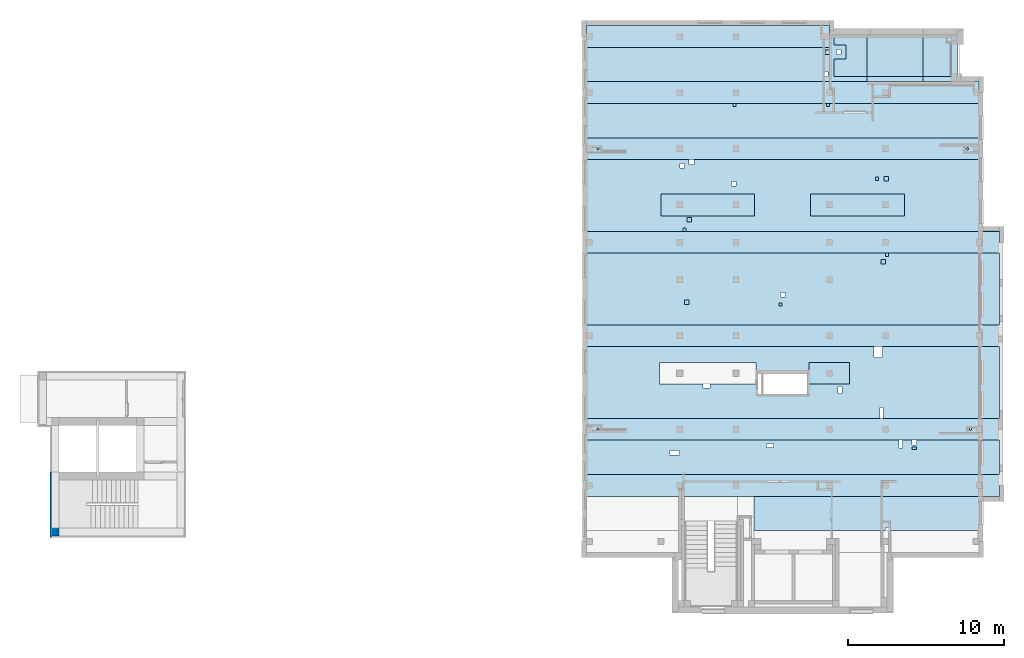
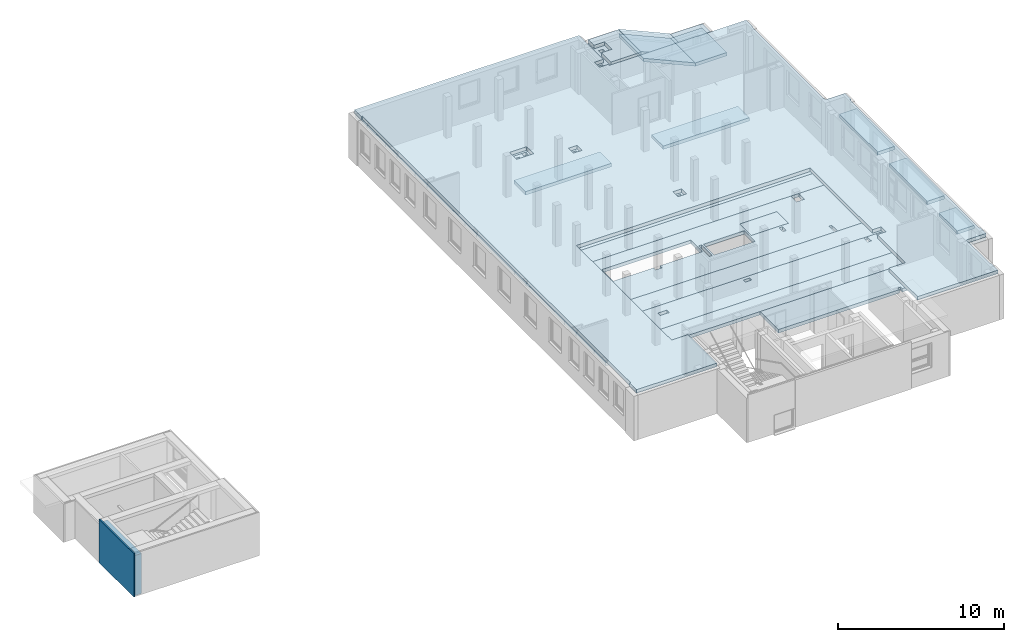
# One storey, part 2 of 27: 26 slabs, 1 wall, 33 openings.
"""IFC4 building model written with IfcOpenShell, lengths in metres."""

from ifc_helpers import new_model, entity, si_unit, converted_unit, derived_unit, frame, frame_2d, origin, origin_with_axes, place, context, subcontext, project, spatial, polyline, rectangle, circle, outline, extrude, clip, bounded_halfspace, material, layer, layer_set, layer_usage, element, save


model = new_model("IFC4")

# Units and contexts
model_context = context("Model", 3, precision=1e-05, world=origin())
body_context = subcontext(model_context, "Body", "Model", "MODEL_VIEW")
ifc_project = project(units=[si_unit("LENGTHUNIT", "METRE"), si_unit("AREAUNIT", "SQUARE_METRE"), si_unit("VOLUMEUNIT", "CUBIC_METRE"), si_unit("MASSUNIT", "GRAM", prefix="KILO"), converted_unit("PLANEANGLEUNIT", "DEGREE", entity("IfcPlaneAngleMeasure", 0.0174532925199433), si_unit("PLANEANGLEUNIT", "RADIAN"), dimensions=[0, 0, 0, 0, 0, 0, 0]), derived_unit("THERMALTRANSMITTANCEUNIT", [(si_unit("POWERUNIT", "WATT"), 1), (si_unit("THERMODYNAMICTEMPERATUREUNIT", "KELVIN"), -1), (si_unit("LENGTHUNIT", "METRE"), -2)]), derived_unit("VOLUMETRICFLOWRATEUNIT", [(si_unit("LENGTHUNIT", "METRE"), 3), (converted_unit("TIMEUNIT", "hour", entity("IfcTimeMeasure", 3600.0), si_unit("TIMEUNIT", "SECOND"), dimensions=[0, 0, 1, 0, 0, 0, 0]), -1), (si_unit("LENGTHUNIT", "METRE"), -1)])], contexts=[model_context])

# Site, building, storey
site_placement = place(None, origin())
site = spatial("IfcSite", under=ifc_project, at=site_placement, Name="3. ASŘ", CompositionType="ELEMENT")
building_placement = place(site_placement, origin())
building = spatial("IfcBuilding", under=site, at=building_placement, Name="Pavilon C", CompositionType="ELEMENT")
storey_placement = place(building_placement, frame((0.0, 0.0, 10.5)))
storey = spatial("IfcBuildingStorey", under=building, at=storey_placement, Name="Půdorys 4.NP", CompositionType="ELEMENT", Elevation=10.5)

# Slab, openings
ifc_material_1 = material(Name="PZD")
slab_1_placement = place(storey_placement, frame((24.75, 13.9, 2.95)))
slab_1 = element("IfcSlab", 1, at=slab_1_placement, inside=storey, material=ifc_material_1, PredefinedType="FLOOR", context=body_context, shape_type="SweptSolid", body=[
    extrude(rectangle(XDim=4.6, YDim=25.2, at=frame_2d((12.6, -2.3), x_axis=(0.0, -1.0))), frame((0.0, 4.6, 0.0), z_axis=(0.0, 0.0, 1.0), x_axis=(1.0, 0.0, 0.0)), (0.0, 0.0, 1.0), 0.25),
])
opening_1_placement = place(slab_1_placement, frame((12.475, 1.775, 0.0)))
element("IfcOpeningElement", 2, at=opening_1_placement, cuts=slab_1, Name="Prostup deskou", ObjectType="Opening", context=body_context, shape_type="SweptSolid", body=[
    extrude(rectangle(XDim=0.3, YDim=0.3, at=frame_2d((0.0, -3.63797880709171e-15), x_axis=(0.0, -1.0))), frame((0.15, 0.150000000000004, 0.0), z_axis=(0.0, 0.0, 1.0), x_axis=(1.0, 0.0, 0.0)), (0.0, 0.0, 1.0), 0.25),
])
opening_2_placement = place(slab_1_placement, frame((12.35, 1.2, 0.0)))
element("IfcOpeningElement", 3, at=opening_2_placement, cuts=slab_1, Name="Prostup deskou", ObjectType="Opening", context=body_context, shape_type="SweptSolid", body=[
    extrude(rectangle(XDim=0.2, YDim=0.2, at=frame_2d((7.27595761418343e-15, -1.81898940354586e-15), x_axis=(0.0, -1.0))), frame((0.0999999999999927, 0.100000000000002, 0.0), z_axis=(0.0, 0.0, 1.0), x_axis=(1.0, 0.0, 0.0)), (0.0, 0.0, 1.0), 0.25),
])
opening_3_placement = place(slab_1_placement, frame((19.2, 4.4, 0.0)))
element("IfcOpeningElement", 4, at=opening_3_placement, cuts=slab_1, Name="Prostup deskou", ObjectType="Opening", context=body_context, shape_type="SweptSolid", body=[
    extrude(rectangle(XDim=0.2, YDim=0.2, at=frame_2d((7.27595761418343e-15, -3.63797880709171e-15), x_axis=(0.0, -1.0))), frame((0.0999999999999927, 0.100000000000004, 0.0), z_axis=(0.0, 0.0, 1.0), x_axis=(1.0, 0.0, 0.0)), (0.0, 0.0, 1.0), 0.25),
])
opening_4_placement = place(slab_1_placement, frame((18.9, 3.9, 0.0)))
element("IfcOpeningElement", 5, at=opening_4_placement, cuts=slab_1, Name="Prostup deskou", ObjectType="Opening", context=body_context, shape_type="SweptSolid", body=[
    extrude(rectangle(XDim=0.3, YDim=0.3, at=frame_2d((7.27595761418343e-15, -3.63797880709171e-15), x_axis=(0.0, -1.0))), frame((0.149999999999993, 0.150000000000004, 0.0), z_axis=(0.0, 0.0, 1.0), x_axis=(1.0, 0.0, 0.0)), (0.0, 0.0, 1.0), 0.25),
])
opening_5_placement = place(slab_1_placement, frame((6.3, 1.3, 0.0)))
element("IfcOpeningElement", 6, at=opening_5_placement, cuts=slab_1, Name="Prostup deskou", ObjectType="Opening", context=body_context, shape_type="SweptSolid", body=[
    extrude(rectangle(XDim=0.3, YDim=0.3, at=frame_2d((7.27595761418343e-15, -1.81898940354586e-15), x_axis=(0.0, -1.0))), frame((0.149999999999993, 0.150000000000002, 0.0), z_axis=(0.0, 0.0, 1.0), x_axis=(1.0, 0.0, 0.0)), (0.0, 0.0, 1.0), 0.25),
])

# Slab, opening
ifc_material_2 = material(Name="PZD")
slab_2_placement = place(storey_placement, frame((35.52, 0.699999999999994, 2.95)))
slab_2 = element("IfcSlab", 7, at=slab_2_placement, inside=storey, material=ifc_material_2, PredefinedType="FLOOR", context=body_context, shape_type="SweptSolid", body=[
    extrude(rectangle(XDim=14.43, YDim=2.2, at=frame_2d((7.215, 1.1), x_axis=(1.0, -7.87850573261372e-18))), frame((0.0, 1.13686837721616e-16, 0.0), z_axis=(0.0, 0.0, 1.0), x_axis=(1.0, 0.0, 0.0)), (0.0, 0.0, 1.0), 0.25),
])
opening_6_placement = place(slab_2_placement, frame((8.43, -1.70530256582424e-15, 0.0)))
element("IfcOpeningElement", 8, at=opening_6_placement, cuts=slab_2, Name="Prostup deskou", ObjectType="Opening", context=body_context, shape_type="SweptSolid", body=[
    extrude(rectangle(XDim=0.2, YDim=0.2, at=frame_2d((7.27595761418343e-15, 0.0), x_axis=(0.0, -1.0))), frame((0.0999999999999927, 0.1, 0.0), z_axis=(0.0, 0.0, 1.0), x_axis=(1.0, 0.0, 0.0)), (0.0, 0.0, 1.0), 0.25),
])

# Slabs
ifc_material_3 = material(Name="PZD")
slab_3_placement = place(storey_placement, frame((50.05, 4.29999999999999, 2.95)))
element("IfcSlab", 9, at=slab_3_placement, inside=storey, material=ifc_material_3, PredefinedType="FLOOR", context=body_context, shape_type="SweptSolid", body=[
    extrude(rectangle(XDim=1.2, YDim=2.2, at=frame_2d((0.6, 1.1), x_axis=(1.0, 0.0))), origin_with_axes(), (0.0, 0.0, 1.0), 0.25),
])
ifc_material_4 = material(Name="PZD")
slab_4_placement = place(storey_placement, frame((50.05, 7.89999999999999, 2.95)))
element("IfcSlab", 10, at=slab_4_placement, inside=storey, material=ifc_material_4, PredefinedType="FLOOR", context=body_context, shape_type="SweptSolid", body=[
    extrude(rectangle(XDim=1.2, YDim=4.6, at=frame_2d((0.6, 2.3), x_axis=(1.0, 0.0))), origin_with_axes(), (0.0, 0.0, 1.0), 0.25),
])
ifc_material_5 = material(Name="RZT")
slab_5_placement = place(storey_placement, frame((24.75, 2.89999999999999, 2.95)))
element("IfcSlab", 11, at=slab_5_placement, inside=storey, material=ifc_material_5, PredefinedType="FLOOR", context=body_context, shape_type="SweptSolid", body=[
    extrude(rectangle(XDim=1.4, YDim=26.5, at=frame_2d((-13.25, 0.700000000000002), x_axis=(0.0, 1.0))), frame((26.5, 0.0, 0.0), z_axis=(0.0, 0.0, 1.0), x_axis=(1.0, 0.0, 0.0)), (0.0, 0.0, 1.0), 0.25),
])
ifc_material_6 = material(Name="RZT")
slab_6_placement = place(storey_placement, frame((39.05, 10.1, 2.95)))
element("IfcSlab", 12, at=slab_6_placement, inside=storey, material=ifc_material_6, PredefinedType="FLOOR", context=body_context, shape_type="SweptSolid", body=[
    extrude(rectangle(XDim=1.4, YDim=2.6, at=frame_2d((-1.3, 0.7), x_axis=(0.0, 1.0))), frame((2.6, 0.0, 0.0), z_axis=(0.0, 0.0, 1.0), x_axis=(1.0, 0.0, 0.0)), (0.0, 0.0, 1.0), 0.25),
])
ifc_material_7 = material(Name="RZT")
slab_7_placement = place(storey_placement, frame((24.75, 12.5, 2.95)))
element("IfcSlab", 13, at=slab_7_placement, inside=storey, material=ifc_material_7, PredefinedType="FLOOR", context=body_context, shape_type="SweptSolid", body=[
    extrude(rectangle(XDim=1.4, YDim=26.5, at=frame_2d((-13.25, 0.700000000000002), x_axis=(0.0, 1.0))), frame((26.5, 0.0, 0.0), z_axis=(0.0, 0.0, 1.0), x_axis=(1.0, 0.0, 0.0)), (0.0, 0.0, 1.0), 0.25),
])
ifc_material_8 = material(Name="RZT")
slab_8_placement = place(storey_placement, frame((24.75, 18.5, 2.95)))
element("IfcSlab", 14, at=slab_8_placement, inside=storey, material=ifc_material_8, PredefinedType="FLOOR", context=body_context, shape_type="SweptSolid", body=[
    extrude(rectangle(XDim=1.4, YDim=26.5, at=frame_2d((-13.25, 0.7), x_axis=(0.0, 1.0))), frame((26.5, 0.0, 0.0), z_axis=(0.0, 0.0, 1.0), x_axis=(1.0, 0.0, 0.0)), (0.0, 0.0, 1.0), 0.25),
])
ifc_material_9 = material(Name="RZT")
slab_9_placement = place(storey_placement, frame((39.15, 20.9, 2.95)))
element("IfcSlab", 15, at=slab_9_placement, inside=storey, material=ifc_material_9, PredefinedType="FLOOR", context=body_context, shape_type="SweptSolid", body=[
    extrude(rectangle(XDim=1.4, YDim=6.0, at=frame_2d((-3.0, 0.7), x_axis=(0.0, 1.0))), frame((6.0, 0.0, 0.0), z_axis=(0.0, 0.0, 1.0), x_axis=(1.0, 0.0, 0.0)), (0.0, 0.0, 1.0), 0.25),
])
ifc_material_10 = material(Name="RZT")
slab_10_placement = place(storey_placement, frame((29.55, 20.9, 2.95)))
element("IfcSlab", 16, at=slab_10_placement, inside=storey, material=ifc_material_10, PredefinedType="FLOOR", context=body_context, shape_type="SweptSolid", body=[
    extrude(rectangle(XDim=1.4, YDim=6.0, at=frame_2d((-3.0, 0.7), x_axis=(0.0, 1.0))), frame((6.0, 0.0, 0.0), z_axis=(0.0, 0.0, 1.0), x_axis=(1.0, 0.0, 0.0)), (0.0, 0.0, 1.0), 0.25),
])
ifc_material_11 = material(Name="PZD")
slab_11_placement = place(storey_placement, frame((50.05, 13.9, 2.95)))
element("IfcSlab", 17, at=slab_11_placement, inside=storey, material=ifc_material_11, PredefinedType="FLOOR", context=body_context, shape_type="SweptSolid", body=[
    extrude(rectangle(XDim=1.2, YDim=4.6, at=frame_2d((0.6, 2.3), x_axis=(1.0, 0.0))), origin_with_axes(), (0.0, 0.0, 1.0), 0.25),
])
ifc_material_12 = material(Name="RZT")
slab_12_placement = place(storey_placement, frame((24.75, 31.7, 2.95)))
element("IfcSlab", 18, at=slab_12_placement, inside=storey, material=ifc_material_12, PredefinedType="FLOOR", context=body_context, shape_type="SweptSolid", body=[
    extrude(rectangle(XDim=15.6, YDim=1.4, at=frame_2d((-7.8, -0.7), x_axis=(-1.0, 0.0))), frame((15.6, 1.4, 0.0), z_axis=(0.0, 0.0, 1.0), x_axis=(1.0, 0.0, 0.0)), (0.0, 0.0, 1.0), 0.25),
])

# Slab, openings
ifc_material_13 = material(Name="PZD")
slab_13_placement = place(storey_placement, frame((24.75, 7.9, 2.95)))
slab_13 = element("IfcSlab", 19, at=slab_13_placement, inside=storey, material=ifc_material_13, PredefinedType="FLOOR", context=body_context, shape_type="SweptSolid", body=[
    extrude(outline(polyline([(25.2, 0.0), (25.2, 4.6), (0.0, 4.6), (0.0, 0.0), (25.2, 0.0)]), holes=[polyline([(10.9, 2.19999999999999), (4.7, 2.19999999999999), (4.7, 3.59999999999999), (10.9, 3.59999999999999), (10.9, 2.19999999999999)]), polyline([(14.3, 2.2), (14.3, 3.59999999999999), (16.9, 3.59999999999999), (16.9, 2.19999999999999), (14.3, 2.2)])]), origin_with_axes(), (0.0, 0.0, 1.0), 0.25),
])
opening_7_placement = place(slab_13_placement, frame((18.85, -4.54747350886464e-15, 0.0)))
element("IfcOpeningElement", 20, at=opening_7_placement, cuts=slab_13, Name="Prostup deskou", ObjectType="Opening", context=body_context, shape_type="SweptSolid", body=[
    extrude(rectangle(XDim=0.7, YDim=0.2, at=frame_2d((7.27595761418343e-15, 0.0), x_axis=(0.0, -1.0))), frame((0.0999999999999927, 0.35, 0.0), z_axis=(0.0, 0.0, 1.0), x_axis=(1.0, 0.0, 0.0)), (0.0, 0.0, 1.0), 0.25),
])
opening_8_placement = place(slab_13_placement, frame((16.15, 1.59999999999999, 1.81898940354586e-15)))
element("IfcOpeningElement", 21, at=opening_8_placement, cuts=slab_13, Name="Prostup deskou", ObjectType="Opening", context=body_context, shape_type="SweptSolid", body=[
    extrude(rectangle(XDim=0.45, YDim=0.25, at=frame_2d((7.27595761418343e-15, 1.81898940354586e-15), x_axis=(0.0, -1.0))), frame((0.124999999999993, 0.224999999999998, -1.81898940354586e-15), z_axis=(0.0, 0.0, 1.0), x_axis=(1.0, 0.0, 0.0)), (0.0, 0.0, 1.0), 0.25),
])
opening_9_placement = place(slab_13_placement, frame((18.45, 3.9, 1.81898940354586e-15)))
element("IfcOpeningElement", 22, at=opening_9_placement, cuts=slab_13, Name="Prostup deskou", ObjectType="Opening", context=body_context, shape_type="SweptSolid", body=[
    extrude(rectangle(XDim=0.7, YDim=0.55, at=frame_2d((7.27595761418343e-15, 0.0), x_axis=(0.0, -1.0))), frame((0.274999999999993, 0.35, -1.81898940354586e-15), z_axis=(0.0, 0.0, 1.0), x_axis=(1.0, 0.0, 0.0)), (0.0, 0.0, 1.0), 0.25),
])
opening_10_placement = place(slab_13_placement, frame((7.5, 1.95, 1.81898940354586e-15)))
element("IfcOpeningElement", 23, at=opening_10_placement, cuts=slab_13, Name="Prostup deskou", ObjectType="Opening", context=body_context, shape_type="SweptSolid", body=[
    extrude(rectangle(XDim=0.25, YDim=0.45, at=frame_2d((7.27595761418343e-15, -1.81898940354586e-15), x_axis=(0.0, -1.0))), frame((0.224999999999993, 0.125000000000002, -1.81898940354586e-15), z_axis=(0.0, 0.0, 1.0), x_axis=(1.0, 0.0, 0.0)), (0.0, 0.0, 1.0), 0.25),
])
opening_11_placement = place(slab_13_placement, frame((11.3375, 1.55, 0.0)))
element("IfcOpeningElement", 24, at=opening_11_placement, cuts=slab_13, Name="Prostup deskou", ObjectType="Opening", context=body_context, shape_type="SweptSolid", body=[
    extrude(rectangle(XDim=1.3, YDim=2.85, at=frame_2d((7.27595761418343e-15, 0.0), x_axis=(0.0, -1.0))), frame((1.42499999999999, 0.65, 0.0), z_axis=(0.0, 0.0, 1.0), x_axis=(1.0, 0.0, 0.0)), (0.0, 0.0, 1.0), 0.25),
])
opening_12_placement = place(slab_13_placement, frame((11.0125, 1.55, 0.0)))
element("IfcOpeningElement", 25, at=opening_12_placement, cuts=slab_13, Name="Prostup deskou", ObjectType="Opening", context=body_context, shape_type="SweptSolid", body=[
    extrude(rectangle(XDim=1.3, YDim=0.2, at=frame_2d((7.27595761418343e-15, 0.0), x_axis=(0.0, -1.0))), frame((0.0999999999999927, 0.65, 0.0), z_axis=(0.0, 0.0, 1.0), x_axis=(1.0, 0.0, 0.0)), (0.0, 0.0, 1.0), 0.25),
])

ifc_material_14 = material(Name="PZD")
slab_14_placement = place(storey_placement, frame((24.75, 4.3, 2.95)))
slab_14 = element("IfcSlab", 26, at=slab_14_placement, inside=storey, material=ifc_material_14, PredefinedType="FLOOR", context=body_context, shape_type="SweptSolid", body=[
    extrude(rectangle(XDim=2.2, YDim=25.2, at=frame_2d((-12.6, 1.1), x_axis=(0.0, 1.0))), frame((25.2, 0.0, 0.0), z_axis=(0.0, 0.0, 1.0), x_axis=(1.0, 0.0, 0.0)), (0.0, 0.0, 1.0), 0.25),
])
opening_13_placement = place(slab_14_placement, frame((20.9, 1.6, 0.0)))
element("IfcOpeningElement", 27, at=opening_13_placement, cuts=slab_14, Name="Prostup deskou", ObjectType="Opening", context=body_context, shape_type="SweptSolid", body=[
    extrude(rectangle(XDim=0.15, YDim=0.3, at=frame_2d((7.27595761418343e-15, 9.09494701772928e-16), x_axis=(0.0, -1.0))), frame((0.149999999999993, 0.0749999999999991, 0.0), z_axis=(0.0, 0.0, 1.0), x_axis=(1.0, 0.0, 0.0)), (0.0, 0.0, 1.0), 0.25),
])
opening_14_placement = place(slab_14_placement, frame((20.9, 1.9, 0.0)))
element("IfcOpeningElement", 28, at=opening_14_placement, cuts=slab_14, Name="Prostup deskou", ObjectType="Opening", context=body_context, shape_type="SweptSolid", body=[
    extrude(rectangle(XDim=0.3, YDim=0.3, at=frame_2d((7.27595761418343e-15, 9.09494701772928e-16), x_axis=(0.0, -1.0))), frame((0.149999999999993, 0.149999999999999, 0.0), z_axis=(0.0, 0.0, 1.0), x_axis=(1.0, 0.0, 0.0)), (0.0, 0.0, 1.0), 0.25),
])
opening_15_placement = place(slab_14_placement, frame((20.05, 1.7, 0.0)))
element("IfcOpeningElement", 29, at=opening_15_placement, cuts=slab_14, Name="Prostup deskou", ObjectType="Opening", context=body_context, shape_type="SweptSolid", body=[
    extrude(rectangle(XDim=0.5, YDim=0.25, at=frame_2d((7.27595761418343e-15, 9.09494701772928e-16), x_axis=(0.0, -1.0))), frame((0.124999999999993, 0.249999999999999, 0.0), z_axis=(0.0, 0.0, 1.0), x_axis=(1.0, 0.0, 0.0)), (0.0, 0.0, 1.0), 0.25),
])
opening_16_placement = place(slab_14_placement, frame((11.55, 1.725, 1.81898940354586e-15)))
element("IfcOpeningElement", 30, at=opening_16_placement, cuts=slab_14, Name="Prostup deskou", ObjectType="Opening", context=body_context, shape_type="SweptSolid", body=[
    extrude(rectangle(XDim=0.25, YDim=0.45, at=frame_2d((7.27595761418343e-15, 9.09494701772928e-16), x_axis=(0.0, -1.0))), frame((0.224999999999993, 0.124999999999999, -1.81898940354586e-15), z_axis=(0.0, 0.0, 1.0), x_axis=(1.0, 0.0, 0.0)), (0.0, 0.0, 1.0), 0.25),
])
opening_17_placement = place(slab_14_placement, frame((5.325, 1.25, 0.0)))
element("IfcOpeningElement", 31, at=opening_17_placement, cuts=slab_14, Name="Prostup deskou", ObjectType="Opening", context=body_context, shape_type="SweptSolid", body=[
    extrude(rectangle(XDim=0.3, YDim=0.65, at=frame_2d((3.63797880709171e-15, -9.09494701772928e-16), x_axis=(0.0, -1.0))), frame((0.324999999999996, 0.150000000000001, 0.0), z_axis=(0.0, 0.0, 1.0), x_axis=(1.0, 0.0, 0.0)), (0.0, 0.0, 1.0), 0.25),
])

ifc_material_15 = material(Name="PZD")
slab_15_placement = place(storey_placement, frame((24.75, 25.9, 2.95)))
slab_15 = element("IfcSlab", 32, at=slab_15_placement, inside=storey, material=ifc_material_15, PredefinedType="FLOOR", context=body_context, shape_type="SweptSolid", body=[
    extrude(rectangle(XDim=25.2, YDim=2.2, at=frame_2d((12.6, 1.1), x_axis=(1.0, -1.44364238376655e-16))), frame((0.0, 3.63797880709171e-15, 0.0), z_axis=(0.0, 0.0, 1.0), x_axis=(1.0, 0.0, 0.0)), (0.0, 0.0, 1.0), 0.25),
])
opening_18_placement = place(slab_15_placement, frame((15.4, 2.0, 0.0)))
element("IfcOpeningElement", 33, at=opening_18_placement, cuts=slab_15, Name="Prostup deskou", ObjectType="Opening", context=body_context, shape_type="SweptSolid", body=[
    extrude(rectangle(XDim=0.2, YDim=0.2, at=frame_2d((7.27595761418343e-15, -3.63797880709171e-15), x_axis=(0.0, -1.0))), frame((0.0999999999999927, 0.100000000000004, 0.0), z_axis=(0.0, 0.0, 1.0), x_axis=(1.0, 0.0, 0.0)), (0.0, 0.0, 1.0), 0.25),
])
opening_19_placement = place(slab_15_placement, frame((9.4, 2.0, 0.0)))
element("IfcOpeningElement", 34, at=opening_19_placement, cuts=slab_15, Name="Prostup deskou", ObjectType="Opening", context=body_context, shape_type="SweptSolid", body=[
    extrude(rectangle(XDim=0.2, YDim=0.2, at=frame_2d((7.27595761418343e-15, -3.63797880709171e-15), x_axis=(0.0, -1.0))), frame((0.0999999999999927, 0.100000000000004, 0.0), z_axis=(0.0, 0.0, 1.0), x_axis=(1.0, 0.0, 0.0)), (0.0, 0.0, 1.0), 0.25),
])

ifc_material_16 = material(Name="RZT")
slab_16_placement = place(storey_placement, frame((24.75, 24.5, 2.95)))
slab_16 = element("IfcSlab", 35, at=slab_16_placement, inside=storey, material=ifc_material_16, PredefinedType="FLOOR", context=body_context, shape_type="SweptSolid", body=[
    extrude(rectangle(XDim=1.4, YDim=25.2, at=frame_2d((-12.6, 0.700000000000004), x_axis=(0.0, 1.0))), frame((25.2, 0.0, 0.0), z_axis=(0.0, 0.0, 1.0), x_axis=(1.0, 0.0, 0.0)), (0.0, 0.0, 1.0), 0.25),
])
opening_20_placement = place(slab_16_placement, frame((24.3753095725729, 0.625309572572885, 0.0)))
element("IfcOpeningElement", 36, at=opening_20_placement, cuts=slab_16, Name="Prostup deskou", ObjectType="Opening", context=body_context, shape_type="SweptSolid", body=[
    extrude(circle(Radius=0.0749999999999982, at=frame_2d((0.0, 7.27595761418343e-15), x_axis=(1.0, 0.0))), frame((0.0746904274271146, 0.0746904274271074, 0.0), z_axis=(0.0, 0.0, 1.0), x_axis=(1.0, 0.0, 0.0)), (0.0, 0.0, 1.0), 0.25),
])
opening_21_placement = place(slab_16_placement, frame((0.675309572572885, 0.625309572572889, 0.0)))
element("IfcOpeningElement", 37, at=opening_21_placement, cuts=slab_16, Name="Prostup deskou", ObjectType="Opening", context=body_context, shape_type="SweptSolid", body=[
    extrude(circle(Radius=0.0750000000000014, at=frame_2d((3.63797880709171e-15, 3.63797880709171e-15), x_axis=(1.0, 0.0))), frame((0.074690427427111, 0.074690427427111, 0.0), z_axis=(0.0, 0.0, 1.0), x_axis=(1.0, 0.0, 0.0)), (0.0, 0.0, 1.0), 0.25),
])

ifc_material_17 = material(Name="RZT")
slab_17_placement = place(storey_placement, frame((24.75, 6.49999999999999, 2.95)))
slab_17 = element("IfcSlab", 38, at=slab_17_placement, inside=storey, material=ifc_material_17, PredefinedType="FLOOR", context=body_context, shape_type="SweptSolid", body=[
    extrude(rectangle(XDim=1.4, YDim=26.5, at=frame_2d((-13.25, 0.700000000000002), x_axis=(0.0, 1.0))), frame((26.5, 0.0, 0.0), z_axis=(0.0, 0.0, 1.0), x_axis=(1.0, 0.0, 0.0)), (0.0, 0.0, 1.0), 0.25),
])
opening_22_placement = place(slab_17_placement, frame((0.675309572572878, 0.625309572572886, 0.0)))
element("IfcOpeningElement", 39, at=opening_22_placement, cuts=slab_17, Name="Prostup deskou", ObjectType="Opening", context=body_context, shape_type="SweptSolid", body=[
    extrude(circle(Radius=0.0749999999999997, at=frame_2d((-3.63797880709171e-15, -1.81898940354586e-15), x_axis=(1.0, 0.0))), frame((0.0746904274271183, 0.0746904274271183, 0.0), z_axis=(0.0, 0.0, 1.0), x_axis=(1.0, 0.0, 0.0)), (0.0, 0.0, 1.0), 0.25),
])
opening_23_placement = place(slab_17_placement, frame((24.5753095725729, 0.625309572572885, 0.0)))
element("IfcOpeningElement", 40, at=opening_23_placement, cuts=slab_17, Name="Prostup deskou", ObjectType="Opening", context=body_context, shape_type="SweptSolid", body=[
    extrude(circle(Radius=0.0750000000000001, at=frame_2d((0.0, -2.72848410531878e-15), x_axis=(1.0, 0.0))), frame((0.0746904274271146, 0.0746904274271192, 0.0), z_axis=(0.0, 0.0, 1.0), x_axis=(1.0, 0.0, 0.0)), (0.0, 0.0, 1.0), 0.25),
])

# Slabs
ifc_material_18 = material(Name="RZT")
slab_18_placement = place(storey_placement, frame((24.75, 28.1, 2.95)))
element("IfcSlab", 41, at=slab_18_placement, inside=storey, material=ifc_material_18, PredefinedType="FLOOR", context=body_context, shape_type="SweptSolid", body=[
    extrude(rectangle(XDim=1.4, YDim=25.2, at=frame_2d((-12.6, 0.700000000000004), x_axis=(0.0, 1.0))), frame((25.2, 0.0, 0.0), z_axis=(0.0, 0.0, 1.0), x_axis=(1.0, 0.0, 0.0)), (0.0, 0.0, 1.0), 0.25),
])
ifc_material_19 = material(Name="PZD")
slab_19_placement = place(storey_placement, frame((46.35, 29.5, 1.35)))
element("IfcSlab", 42, at=slab_19_placement, inside=storey, material=ifc_material_19, PredefinedType="FLOOR", context=body_context, shape_type="SweptSolid", body=[
    extrude(rectangle(XDim=3.0, YDim=2.2, at=frame_2d((1.1, -1.5), x_axis=(0.0, -1.0))), frame((0.0, 3.0, 0.0), z_axis=(0.0, 0.0, 1.0), x_axis=(1.0, 0.0, 0.0)), (0.0, 0.0, 1.0), 0.25),
])
ifc_material_20 = material(Name="PZD")
slab_20_placement = place(storey_placement, frame((42.75, 29.5, 1.35), z_axis=(0.406138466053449, 0.0, 0.913811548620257), x_axis=(0.0, -1.0, 0.0)))
element("IfcSlab", 43, at=slab_20_placement, inside=storey, material=ifc_material_20, PredefinedType="FLOOR", context=body_context, shape_type="SweptSolid", body=[
    extrude(rectangle(XDim=3.93954312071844, YDim=3.0, at=frame_2d((5.45696821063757e-15, 7.27595761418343e-15), x_axis=(0.0, 1.0))), frame((-1.5, 1.3199500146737, 1.46209847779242), z_axis=(0.0, 0.0, 1.0), x_axis=(1.0, 0.0, 0.0)), (0.0, -0.406138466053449, 0.913811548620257), 0.249999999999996),
])

# Slab, openings
ifc_material_21 = material(Name="PZD")
slab_21_placement = place(storey_placement, frame((24.75, 19.9, 2.95)))
slab_21 = element("IfcSlab", 44, at=slab_21_placement, inside=storey, material=ifc_material_21, PredefinedType="FLOOR", context=body_context, shape_type="SweptSolid", body=[
    extrude(outline(polyline([(0.0, 4.59999999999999), (0.0, 0.0), (25.2, 0.0), (25.2, 4.59999999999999), (0.0, 4.59999999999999)]), holes=[polyline([(20.4, 0.999999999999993), (14.4, 0.999999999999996), (14.4, 2.4), (20.4, 2.4), (20.4, 0.999999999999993)]), polyline([(4.8, 2.4), (10.8, 2.39999999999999), (10.8, 0.999999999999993), (4.8, 0.999999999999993), (4.8, 2.4)])]), origin_with_axes(), (0.0, 0.0, 1.0), 0.25),
])
opening_24_placement = place(slab_21_placement, frame((18.55, 3.27499999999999, 0.0)))
element("IfcOpeningElement", 45, at=opening_24_placement, cuts=slab_21, Name="Prostup deskou", ObjectType="Opening", context=body_context, shape_type="SweptSolid", body=[
    extrude(rectangle(XDim=0.2, YDim=0.2, at=frame_2d((7.27595761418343e-15, -3.63797880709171e-15), x_axis=(0.0, -1.0))), frame((0.0999999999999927, 0.100000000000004, 0.0), z_axis=(0.0, 0.0, 1.0), x_axis=(1.0, 0.0, 0.0)), (0.0, 0.0, 1.0), 0.25),
])
opening_25_placement = place(slab_21_placement, frame((19.1, 3.22499999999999, 0.0)))
element("IfcOpeningElement", 46, at=opening_25_placement, cuts=slab_21, Name="Prostup deskou", ObjectType="Opening", context=body_context, shape_type="SweptSolid", body=[
    extrude(rectangle(XDim=0.3, YDim=0.3, at=frame_2d((7.27595761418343e-15, -3.63797880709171e-15), x_axis=(0.0, -1.0))), frame((0.149999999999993, 0.150000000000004, 0.0), z_axis=(0.0, 0.0, 1.0), x_axis=(1.0, 0.0, 0.0)), (0.0, 0.0, 1.0), 0.25),
])
opening_26_placement = place(slab_21_placement, frame((6.6, 4.3, 0.0)))
element("IfcOpeningElement", 47, at=opening_26_placement, cuts=slab_21, Name="Prostup deskou", ObjectType="Opening", context=body_context, shape_type="SweptSolid", body=[
    extrude(rectangle(XDim=0.3, YDim=0.3, at=frame_2d((7.27595761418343e-15, -3.63797880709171e-15), x_axis=(0.0, -1.0))), frame((0.149999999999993, 0.150000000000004, 0.0), z_axis=(0.0, 0.0, 1.0), x_axis=(1.0, 0.0, 0.0)), (0.0, 0.0, 1.0), 0.25),
])
opening_27_placement = place(slab_21_placement, frame((9.3, 2.9, 0.0)))
element("IfcOpeningElement", 48, at=opening_27_placement, cuts=slab_21, Name="Prostup deskou", ObjectType="Opening", context=body_context, shape_type="SweptSolid", body=[
    extrude(rectangle(XDim=0.3, YDim=0.3, at=frame_2d((7.27595761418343e-15, -3.63797880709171e-15), x_axis=(0.0, -1.0))), frame((0.149999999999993, 0.150000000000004, 0.0), z_axis=(0.0, 0.0, 1.0), x_axis=(1.0, 0.0, 0.0)), (0.0, 0.0, 1.0), 0.25),
])
opening_28_placement = place(slab_21_placement, frame((6.2, 0.0, 0.0)))
element("IfcOpeningElement", 49, at=opening_28_placement, cuts=slab_21, Name="Prostup deskou", ObjectType="Opening", context=body_context, shape_type="SweptSolid", body=[
    extrude(rectangle(XDim=0.2, YDim=0.2, at=frame_2d((7.27595761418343e-15, 0.0), x_axis=(0.0, -1.0))), frame((0.0999999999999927, 0.1, 0.0), z_axis=(0.0, 0.0, 1.0), x_axis=(1.0, 0.0, 0.0)), (0.0, 0.0, 1.0), 0.25),
])
opening_29_placement = place(slab_21_placement, frame((6.45, 0.6, 0.0)))
element("IfcOpeningElement", 50, at=opening_29_placement, cuts=slab_21, Name="Prostup deskou", ObjectType="Opening", context=body_context, shape_type="SweptSolid", body=[
    extrude(rectangle(XDim=0.3, YDim=0.3, at=frame_2d((7.27595761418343e-15, 0.0), x_axis=(0.0, -1.0))), frame((0.149999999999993, 0.15, 0.0), z_axis=(0.0, 0.0, 1.0), x_axis=(1.0, 0.0, 0.0)), (0.0, 0.0, 1.0), 0.25),
])
opening_30_placement = place(slab_21_placement, frame((6.0, 4.05, 0.0)))
element("IfcOpeningElement", 51, at=opening_30_placement, cuts=slab_21, Name="Prostup deskou", ObjectType="Opening", context=body_context, shape_type="SweptSolid", body=[
    extrude(rectangle(XDim=0.3, YDim=0.3, at=frame_2d((7.27595761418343e-15, -3.63797880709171e-15), x_axis=(0.0, -1.0))), frame((0.149999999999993, 0.150000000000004, 0.0), z_axis=(0.0, 0.0, 1.0), x_axis=(1.0, 0.0, 0.0)), (0.0, 0.0, 1.0), 0.25),
])

ifc_material_22 = material(Name="PZD")
slab_22_placement = place(storey_placement, frame((24.75, 29.5, 2.95)))
slab_22 = element("IfcSlab", 52, at=slab_22_placement, inside=storey, material=ifc_material_22, PredefinedType="FLOOR", context=body_context, shape_type="SweptSolid", body=[
    extrude(outline(polyline([(0.0, 3.63797880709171e-15), (18.0, 0.0), (18.0, 3.0), (15.6, 3.0), (15.6, 2.2), (0.0, 2.2), (0.0, 3.63797880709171e-15)])), origin_with_axes(), (0.0, 0.0, 1.0), 0.25),
])
opening_31_placement = place(slab_22_placement, frame((15.3, 1.75, 0.0)))
element("IfcOpeningElement", 53, at=opening_31_placement, cuts=slab_22, Name="Prostup deskou", ObjectType="Opening", context=body_context, shape_type="SweptSolid", body=[
    extrude(rectangle(XDim=0.3, YDim=0.3, at=frame_2d((7.27595761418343e-15, -3.63797880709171e-15), x_axis=(0.0, -1.0))), frame((0.149999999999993, 0.150000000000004, 0.0), z_axis=(0.0, 0.0, 1.0), x_axis=(1.0, 0.0, 0.0)), (0.0, 0.0, 1.0), 0.25),
])
opening_32_placement = place(slab_22_placement, frame((15.2, 0.349999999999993, 0.0)))
element("IfcOpeningElement", 54, at=opening_32_placement, cuts=slab_22, Name="Prostup deskou", ObjectType="Opening", context=body_context, shape_type="SweptSolid", body=[
    extrude(rectangle(XDim=0.3, YDim=0.3, at=frame_2d((7.27595761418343e-15, 3.63797880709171e-15), x_axis=(0.0, -1.0))), frame((0.149999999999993, 0.149999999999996, 0.0), z_axis=(0.0, 0.0, 1.0), x_axis=(1.0, 0.0, 0.0)), (0.0, 0.0, 1.0), 0.25),
])
opening_33_placement = place(slab_22_placement, frame((16.0498, 1.75546351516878, 0.0)))
element("IfcOpeningElement", 55, at=opening_33_placement, cuts=slab_22, Name="Prostup deskou", ObjectType="Opening", context=body_context, shape_type="SweptSolid", body=[
    extrude(rectangle(XDim=0.3, YDim=0.3, at=frame_2d((0.0, 3.63797880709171e-15), x_axis=(0.0, -1.0))), frame((0.15, 0.149999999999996, 0.0), z_axis=(0.0, 0.0, 1.0), x_axis=(1.0, 0.0, 0.0)), (0.0, 0.0, 1.0), 0.25),
])

# Slabs
ifc_material_23 = material(Name="PIR")
slab_23_placement = place(storey_placement, frame((24.75, -0.820000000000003, 3.2)))
element("IfcSlab", 56, at=slab_23_placement, inside=storey, material=ifc_material_23, PredefinedType="FLOOR", context=body_context, shape_type="SweptSolid", body=[
    extrude(outline(polyline([(4.45, 14.97), (20.75, 14.97), (20.75, 7.47000000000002), (21.37, 7.47000000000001), (21.37, 6.87), (20.75, 6.87), (20.75, 3.47), (19.6, 3.47), (19.6, 0.0), (25.2, 0.0), (25.2, 0.819999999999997), (25.13, 0.819999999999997), (25.13, 3.7), (26.5, 3.7), (26.5, 4.42), (26.43, 4.41999999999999), (26.43, 20.02), (26.5, 20.02), (26.5, 20.74), (25.13, 20.74), (25.13, 29.62), (25.2, 29.62), (25.2, 30.39), (15.65, 30.39), (15.65, 30.52), (15.05, 30.52), (15.05, 31.12), (15.65, 31.12), (15.65, 34.04), (7.27595761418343e-15, 34.04), (7.27595761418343e-15, 33.22), (0.0700000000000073, 33.22), (0.07, 0.819999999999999), (0.0, 0.819999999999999), (0.0, 0.0), (5.60000000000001, 0.0), (5.60000000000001, 3.47), (4.45, 3.47), (4.45, 14.97)]), holes=[polyline([(7.05000000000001, 25.47), (7.05000000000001, 24.62), (5.85, 24.62), (5.85, 25.47), (7.05000000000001, 25.47)]), polyline([(9.14999999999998, 24.07), (9.75000000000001, 24.07), (9.75000000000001, 23.47), (9.14999999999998, 23.47), (9.14999999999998, 24.07)]), polyline([(12.325, 16.945), (12.925, 16.945), (12.925, 16.345), (12.325, 16.345), (12.325, 16.945)])]), origin_with_axes(), (0.0, 0.0, 1.0), 0.26),
])
ifc_material_24 = material(Name="PIR")
slab_24_placement = place(storey_placement, frame((46.35, 29.82, 1.6)))
element("IfcSlab", 57, at=slab_24_placement, inside=storey, material=ifc_material_24, PredefinedType="FLOOR", context=body_context, shape_type="SweptSolid", body=[
    extrude(rectangle(XDim=2.25, YDim=2.73, at=frame_2d((1.125, 1.365), x_axis=(1.0, 0.0))), origin_with_axes(), (0.0, 0.0, 1.0), 0.26),
])
ifc_material_25 = material(Name="PIR")
slab_25_placement = place(storey_placement, frame((42.75, 29.82, 1.59999999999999), z_axis=(0.406138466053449, -1.51879094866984e-15, 0.913811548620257), x_axis=(-3.73958902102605e-15, -1.0, 0.0)))
element("IfcSlab", 58, at=slab_25_placement, inside=storey, material=ifc_material_25, PredefinedType="FLOOR", context=body_context, shape_type="SweptSolid", body=[
    extrude(rectangle(XDim=2.73, YDim=3.93954312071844, at=frame_2d((5.45696821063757e-15, 1.45519152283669e-14), x_axis=(1.0, 5.33037187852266e-15))), frame((-1.36500000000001, 1.31995001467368, 1.46209847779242), z_axis=(0.0, 0.0, 1.0), x_axis=(1.0, 0.0, 0.0)), (0.0, -0.406138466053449, 0.913811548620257), 0.306408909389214),
])
ifc_material_26 = material(Name="PIR")
slab_26_placement = place(storey_placement, frame((40.65, 29.82, 3.2)))
element("IfcSlab", 59, at=slab_26_placement, inside=storey, material=ifc_material_26, PredefinedType="FLOOR", context=body_context, shape_type="SweptSolid", body=[
    extrude(outline(polyline([(1.45519152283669e-14, 0.0), (2.10000000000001, 0.0), (2.10000000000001, 2.73), (1.45519152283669e-14, 2.73), (0.0, 2.03546351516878), (0.750000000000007, 2.03546351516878), (0.750000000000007, 1.13546351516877), (1.45519152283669e-14, 1.13546351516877), (1.45519152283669e-14, 0.0)])), origin_with_axes(), (0.0, 0.0, 1.0), 0.26),
])

# Wall
ifc_material_27 = material(Name="EPS")
ifc_layer_1 = layer(ifc_material_27, 0.1)
ifc_material_28 = material(Name="ZDIVO Z CDm")
ifc_layer_2 = layer(ifc_material_28, 0.499999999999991)
ifc_layer_set = layer_set([ifc_layer_1, ifc_layer_2])
ifc_layer_usage = layer_usage(ifc_layer_set, "AXIS2", "POSITIVE", -0.1)
wall_placement = place(storey_placement, frame((-9.67499999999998, 4.45, -0.42), z_axis=(0.0, 0.0, 1.0), x_axis=(-1.73237086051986e-15, -1.0, 0.0)))
element("IfcWall", 60, at=wall_placement, inside=storey, material=ifc_layer_usage, Name="ZDIVO Z CDm", context=body_context, shape_type="Clipping", body=[
    clip(extrude(outline(polyline([(-4.2, 0.0), (0.0, 0.0), (-1.73237086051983e-16, 0.0999999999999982), (-0.1, 0.099999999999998), (-0.100000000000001, 0.599999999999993), (-4.2, 0.599999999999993), (-4.2, 0.0)])), frame((4.2, 0.0, 0.0), z_axis=(0.0, 0.0, 1.0), x_axis=(1.0, 0.0, 0.0)), (0.0, 0.0, 1.0), 3.2), bounded_halfspace(frame((2.05, 0.349999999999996, 2.95), z_axis=(0.0, 0.0, -1.0), x_axis=(1.0, -4.85908899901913e-16, 0.0)), True, origin_with_axes(), polyline([(-1.73237086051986e-16, 0.1), (4.1, 0.099999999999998), (4.1, 0.599999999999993), (-1.29927814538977e-16, 0.599999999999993), (-1.73237086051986e-16, 0.1)]))),
])

save(model, "model.ifc")
